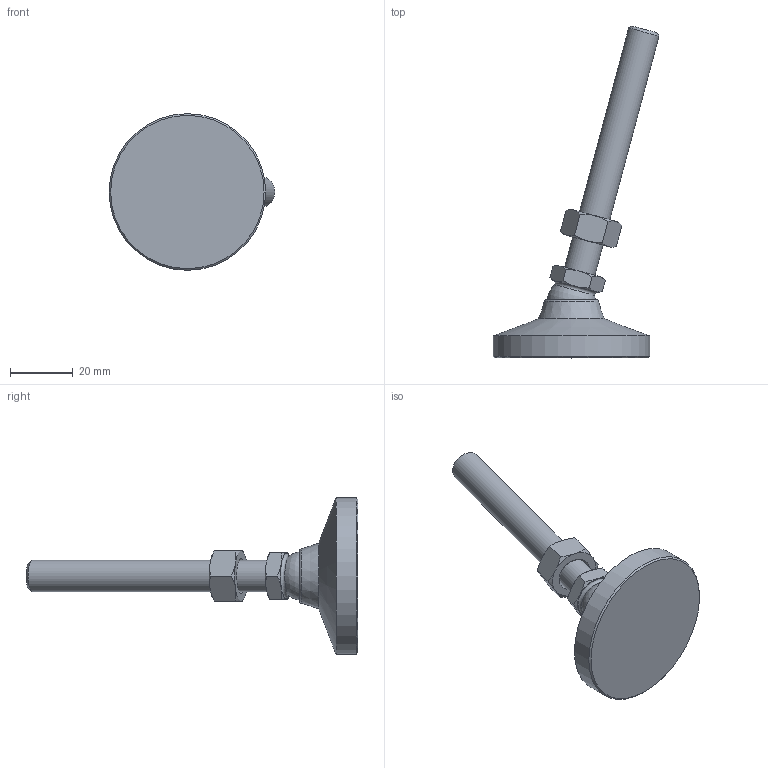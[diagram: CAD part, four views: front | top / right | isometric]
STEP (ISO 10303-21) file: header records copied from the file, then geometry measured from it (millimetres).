
FILE_DESCRIPTION( ( 'STEP AP214' ), ' ' );
FILE_NAME( 'O:/ganter_2015/teil_2/2_5/gn343_2/gn343_2_os/Levelling foot with threaded stud GN 343.2-50-M10-80-OS-(-15).stp', '2015-10-26T09:07:53', ( '' ), ( '' ), ' ', 'PARTsolutions', ' ' );
FILE_SCHEMA( ( 'AUTOMOTIVE_DESIGN { 1 0 10303 214 1 1 1 1 }' ) );
Length unit declared in the file: millimetre
Products named in the file (4): Levelling foot with threaded stud GN 343.2-50-M10-80-OS-(-15); _Levelling foot with threaded stud GN 343.2-50-M10-80-OS-(-15)_foot; _Levelling foot with threaded stud GN 343.2-50-M10-80-OS-(-15)_screw; _Stainless Steel-Levelling feet GN 343.2-50-M10-80-OS-(-15)_nut
Assembly tree (3 placements, depth 2):
  Levelling foot with threaded stud GN 343.2-50-M10-80-OS-(-15)
    _Levelling foot with threaded stud GN 343.2-50-M10-80-OS-(-15)_foot
    _Levelling foot with threaded stud GN 343.2-50-M10-80-OS-(-15)_screw
    _Stainless Steel-Levelling feet GN 343.2-50-M10-80-OS-(-15)_nut
Bounding box: 52.96 x 105.99 x 50 mm (x, y, z)
Volume: 30500.2 mm3; surface area: 10155.9 mm2
Topology: 3 solids, 3 shells, 56 faces, 117 edges, 68 vertices
Faces by surface type: cone 30, plane 19, cylinder 3, torus 2, sphere 2
Full cylindrical faces by diameter (mm): 8.376 x1, 10 x1, 50 x1
Entity records: 2066 total; most frequent: CARTESIAN_POINT 498, DIRECTION 212, ORIENTED_EDGE 200, AXIS2_PLACEMENT_3D 100, EDGE_CURVE 100, EDGE_LOOP 72, VERTEX_POINT 66, FACE_OUTER_BOUND 61
